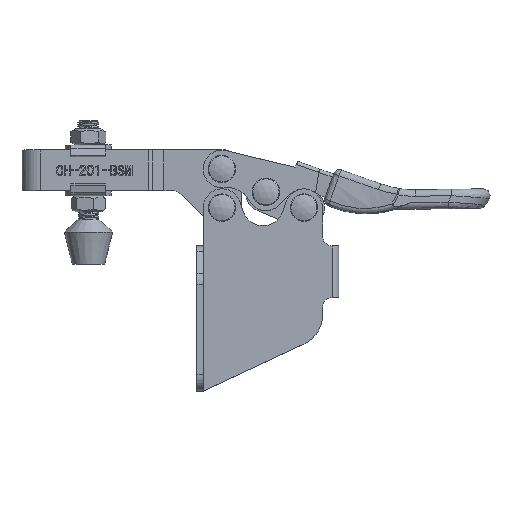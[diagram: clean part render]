
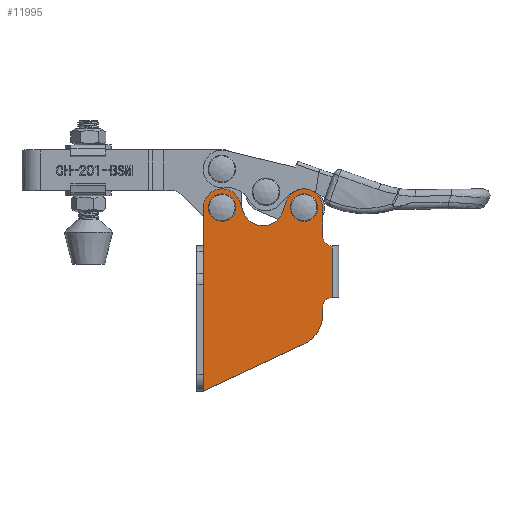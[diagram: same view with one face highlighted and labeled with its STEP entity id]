
A CAD part, top view. The second image highlights one B-rep face of the part: STEP entity #11995.
In plain terms, the highlighted planar face has unit normal (0, 0, 1).
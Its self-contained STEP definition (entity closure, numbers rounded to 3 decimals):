
#127=FACE_BOUND('',#3763,.T.);
#128=FACE_BOUND('',#3764,.T.);
#299=PLANE('',#12987);
#694=LINE('',#40027,#1703);
#727=LINE('',#40129,#1736);
#728=LINE('',#40131,#1737);
#729=LINE('',#40135,#1738);
#730=LINE('',#40139,#1739);
#731=LINE('',#40143,#1740);
#732=LINE('',#40147,#1741);
#733=LINE('',#40150,#1742);
#1703=VECTOR('',#14155,1000.);
#1736=VECTOR('',#14260,1000.);
#1737=VECTOR('',#14261,1000.);
#1738=VECTOR('',#14264,1000.);
#1739=VECTOR('',#14267,1000.);
#1740=VECTOR('',#14270,1000.);
#1741=VECTOR('',#14273,1000.);
#1742=VECTOR('',#14276,1000.);
#3081=FACE_OUTER_BOUND('',#3762,.T.);
#3762=EDGE_LOOP('',(#9123,#9124,#9125,#9126,#9127,#9128,#9129,#9130,#9131,
#9132,#9133,#9134,#9135,#9136));
#3763=EDGE_LOOP('',(#9137,#9138));
#3764=EDGE_LOOP('',(#9139,#9140));
#4941=CIRCLE('',#12988,5.8);
#4942=CIRCLE('',#12989,10.);
#4943=CIRCLE('',#12990,3.);
#4944=CIRCLE('',#12991,3.);
#4945=CIRCLE('',#12992,5.8);
#4946=CIRCLE('',#12993,6.5);
#4947=CIRCLE('',#12994,2.4);
#4948=CIRCLE('',#12995,2.4);
#4949=CIRCLE('',#12996,2.4);
#4950=CIRCLE('',#12997,2.4);
#5381=VERTEX_POINT('',#40024);
#5382=VERTEX_POINT('',#40026);
#5414=VERTEX_POINT('',#40126);
#5415=VERTEX_POINT('',#40127);
#5416=VERTEX_POINT('',#40130);
#5417=VERTEX_POINT('',#40132);
#5418=VERTEX_POINT('',#40134);
#5419=VERTEX_POINT('',#40136);
#5420=VERTEX_POINT('',#40138);
#5421=VERTEX_POINT('',#40140);
#5422=VERTEX_POINT('',#40142);
#5423=VERTEX_POINT('',#40144);
#5424=VERTEX_POINT('',#40146);
#5425=VERTEX_POINT('',#40148);
#5426=VERTEX_POINT('',#40151);
#5427=VERTEX_POINT('',#40152);
#5428=VERTEX_POINT('',#40155);
#5429=VERTEX_POINT('',#40156);
#6754=EDGE_CURVE('',#5382,#5381,#694,.T.);
#6804=EDGE_CURVE('',#5414,#5415,#4941,.T.);
#6805=EDGE_CURVE('',#5382,#5414,#727,.T.);
#6806=EDGE_CURVE('',#5416,#5381,#728,.T.);
#6807=EDGE_CURVE('',#5417,#5416,#4942,.T.);
#6808=EDGE_CURVE('',#5418,#5417,#729,.T.);
#6809=EDGE_CURVE('',#5419,#5418,#4943,.T.);
#6810=EDGE_CURVE('',#5420,#5419,#730,.T.);
#6811=EDGE_CURVE('',#5421,#5420,#4944,.T.);
#6812=EDGE_CURVE('',#5422,#5421,#731,.T.);
#6813=EDGE_CURVE('',#5423,#5422,#4945,.T.);
#6814=EDGE_CURVE('',#5424,#5423,#732,.T.);
#6815=EDGE_CURVE('',#5425,#5424,#4946,.T.);
#6816=EDGE_CURVE('',#5415,#5425,#733,.T.);
#6817=EDGE_CURVE('',#5426,#5427,#4947,.T.);
#6818=EDGE_CURVE('',#5427,#5426,#4948,.T.);
#6819=EDGE_CURVE('',#5428,#5429,#4949,.T.);
#6820=EDGE_CURVE('',#5429,#5428,#4950,.T.);
#9123=ORIENTED_EDGE('',*,*,#6804,.F.);
#9124=ORIENTED_EDGE('',*,*,#6805,.F.);
#9125=ORIENTED_EDGE('',*,*,#6754,.T.);
#9126=ORIENTED_EDGE('',*,*,#6806,.F.);
#9127=ORIENTED_EDGE('',*,*,#6807,.F.);
#9128=ORIENTED_EDGE('',*,*,#6808,.F.);
#9129=ORIENTED_EDGE('',*,*,#6809,.F.);
#9130=ORIENTED_EDGE('',*,*,#6810,.F.);
#9131=ORIENTED_EDGE('',*,*,#6811,.F.);
#9132=ORIENTED_EDGE('',*,*,#6812,.F.);
#9133=ORIENTED_EDGE('',*,*,#6813,.F.);
#9134=ORIENTED_EDGE('',*,*,#6814,.F.);
#9135=ORIENTED_EDGE('',*,*,#6815,.F.);
#9136=ORIENTED_EDGE('',*,*,#6816,.F.);
#9137=ORIENTED_EDGE('',*,*,#6817,.T.);
#9138=ORIENTED_EDGE('',*,*,#6818,.T.);
#9139=ORIENTED_EDGE('',*,*,#6819,.T.);
#9140=ORIENTED_EDGE('',*,*,#6820,.T.);
#11995=ADVANCED_FACE('',(#3081,#127,#128),#299,.F.);
#12987=AXIS2_PLACEMENT_3D('',#40125,#14256,#14257);
#12988=AXIS2_PLACEMENT_3D('',#40128,#14258,#14259);
#12989=AXIS2_PLACEMENT_3D('',#40133,#14262,#14263);
#12990=AXIS2_PLACEMENT_3D('',#40137,#14265,#14266);
#12991=AXIS2_PLACEMENT_3D('',#40141,#14268,#14269);
#12992=AXIS2_PLACEMENT_3D('',#40145,#14271,#14272);
#12993=AXIS2_PLACEMENT_3D('',#40149,#14274,#14275);
#12994=AXIS2_PLACEMENT_3D('',#40153,#14277,#14278);
#12995=AXIS2_PLACEMENT_3D('',#40154,#14279,#14280);
#12996=AXIS2_PLACEMENT_3D('',#40157,#14281,#14282);
#12997=AXIS2_PLACEMENT_3D('',#40158,#14283,#14284);
#14155=DIRECTION('',(0.,-1.,0.));
#14256=DIRECTION('center_axis',(0.,0.,-1.));
#14257=DIRECTION('ref_axis',(-1.,0.,0.));
#14258=DIRECTION('center_axis',(0.,0.,-1.));
#14259=DIRECTION('ref_axis',(-1.,0.,0.));
#14260=DIRECTION('',(0.,1.,0.));
#14261=DIRECTION('',(-0.906,-0.423,0.));
#14262=DIRECTION('center_axis',(0.,0.,-1.));
#14263=DIRECTION('ref_axis',(-1.,0.,0.));
#14264=DIRECTION('',(0.,-1.,0.));
#14265=DIRECTION('center_axis',(0.,0.,1.));
#14266=DIRECTION('ref_axis',(-1.,0.,0.));
#14267=DIRECTION('',(0.,-1.,0.));
#14268=DIRECTION('center_axis',(0.,0.,1.));
#14269=DIRECTION('ref_axis',(-1.,0.,0.));
#14270=DIRECTION('',(0.,-1.,0.));
#14271=DIRECTION('center_axis',(0.,0.,-1.));
#14272=DIRECTION('ref_axis',(-1.,0.,0.));
#14273=DIRECTION('',(0.326,0.945,0.));
#14274=DIRECTION('center_axis',(0.,0.,1.));
#14275=DIRECTION('ref_axis',(-1.,0.,0.));
#14276=DIRECTION('',(0.326,-0.945,0.));
#14277=DIRECTION('center_axis',(0.,0.,-1.));
#14278=DIRECTION('ref_axis',(-1.,0.,0.));
#14279=DIRECTION('center_axis',(0.,0.,-1.));
#14280=DIRECTION('ref_axis',(-1.,0.,0.));
#14281=DIRECTION('center_axis',(0.,0.,-1.));
#14282=DIRECTION('ref_axis',(-1.,0.,0.));
#14283=DIRECTION('center_axis',(0.,0.,-1.));
#14284=DIRECTION('ref_axis',(-1.,0.,0.));
#40024=CARTESIAN_POINT('',(-42.,0.,4.));
#40026=CARTESIAN_POINT('',(-42.,45.,4.));
#40027=CARTESIAN_POINT('',(-42.,63.,4.));
#40125=CARTESIAN_POINT('Origin',(-2.,63.,4.));
#40126=CARTESIAN_POINT('',(-42.,56.9,4.));
#40127=CARTESIAN_POINT('',(-30.717,58.79,4.));
#40128=CARTESIAN_POINT('Origin',(-36.2,56.9,4.));
#40129=CARTESIAN_POINT('',(-42.,63.,4.));
#40130=CARTESIAN_POINT('',(-10.774,14.561,4.));
#40131=CARTESIAN_POINT('',(14.986,26.573,4.));
#40132=CARTESIAN_POINT('',(-5.,23.624,4.));
#40133=CARTESIAN_POINT('Origin',(-15.,23.624,4.));
#40134=CARTESIAN_POINT('',(-5.,26.,4.));
#40135=CARTESIAN_POINT('',(-5.,63.,4.));
#40136=CARTESIAN_POINT('',(-2.,29.,4.));
#40137=CARTESIAN_POINT('Origin',(-2.,26.,4.));
#40138=CARTESIAN_POINT('',(-2.,45.,4.));
#40139=CARTESIAN_POINT('',(-2.,63.,4.));
#40140=CARTESIAN_POINT('',(-5.,48.,4.));
#40141=CARTESIAN_POINT('Origin',(-2.,48.,4.));
#40142=CARTESIAN_POINT('',(-5.,56.9,4.));
#40143=CARTESIAN_POINT('',(-5.,63.,4.));
#40144=CARTESIAN_POINT('',(-16.283,58.79,4.));
#40145=CARTESIAN_POINT('Origin',(-10.8,56.9,4.));
#40146=CARTESIAN_POINT('',(-17.355,55.682,4.));
#40147=CARTESIAN_POINT('',(-13.469,66.954,4.));
#40148=CARTESIAN_POINT('',(-29.645,55.682,4.));
#40149=CARTESIAN_POINT('Origin',(-23.5,57.8,4.));
#40150=CARTESIAN_POINT('',(-28.964,53.705,4.));
#40151=CARTESIAN_POINT('',(-8.4,56.9,4.));
#40152=CARTESIAN_POINT('',(-13.2,56.9,4.));
#40153=CARTESIAN_POINT('Origin',(-10.8,56.9,4.));
#40154=CARTESIAN_POINT('Origin',(-10.8,56.9,4.));
#40155=CARTESIAN_POINT('',(-33.8,56.9,4.));
#40156=CARTESIAN_POINT('',(-38.6,56.9,4.));
#40157=CARTESIAN_POINT('Origin',(-36.2,56.9,4.));
#40158=CARTESIAN_POINT('Origin',(-36.2,56.9,4.));
